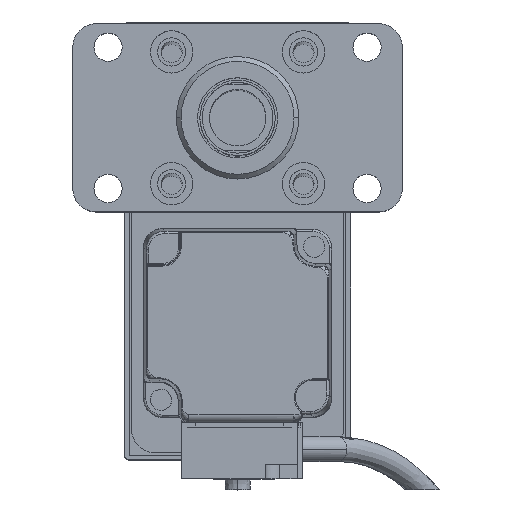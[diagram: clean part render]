
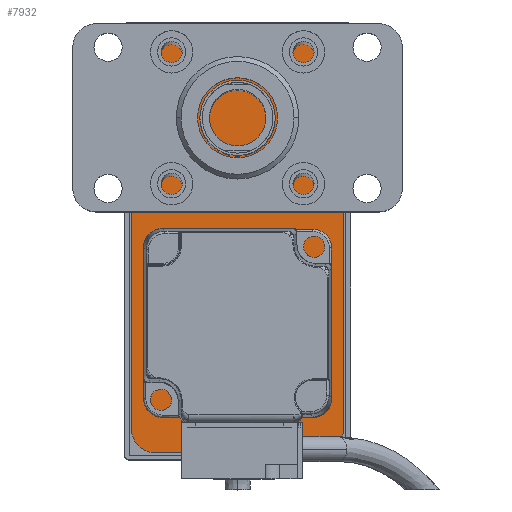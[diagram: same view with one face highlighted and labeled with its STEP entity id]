
A CAD part, top view. The second image highlights one B-rep face of the part: STEP entity #7932.
In plain terms, the highlighted planar face has unit normal (0, 0, 1).
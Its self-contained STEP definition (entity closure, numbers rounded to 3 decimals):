
#1234 = DIRECTION ( 'NONE',  ( 1., 0., 0. ) ) ;
#1962 = CARTESIAN_POINT ( 'NONE',  ( 22.5, 40., 10. ) ) ;
#2036 = CARTESIAN_POINT ( 'NONE',  ( 0., 0., 10. ) ) ;
#2417 = VERTEX_POINT ( 'NONE', #20631 ) ;
#3231 = VECTOR ( 'NONE', #5823, 1000. ) ;
#3233 = DIRECTION ( 'NONE',  ( 0., 0., 1. ) ) ;
#3871 = PLANE ( 'NONE',  #24616 ) ;
#3958 = DIRECTION ( 'NONE',  ( 0., 0., 1. ) ) ;
#4046 = DIRECTION ( 'NONE',  ( 1., 0., 0. ) ) ;
#4261 = CARTESIAN_POINT ( 'NONE',  ( 22.5, -40., 10. ) ) ;
#4332 = ORIENTED_EDGE ( 'NONE', *, *, #4640, .T. ) ;
#4394 = VECTOR ( 'NONE', #17403, 1000. ) ;
#4421 = VERTEX_POINT ( 'NONE', #23497 ) ;
#4640 = EDGE_CURVE ( 'NONE', #2417, #7946, #6030, .T. ) ;
#5169 = CARTESIAN_POINT ( 'NONE',  ( -17.5, -40., 10. ) ) ;
#5355 = CARTESIAN_POINT ( 'NONE',  ( -22.5, -40., 10. ) ) ;
#5425 = CIRCLE ( 'NONE', #5783, 5. ) ;
#5783 = AXIS2_PLACEMENT_3D ( 'NONE', #14087, #18039, #8304 ) ;
#5823 = DIRECTION ( 'NONE',  ( 0., -1., 0. ) ) ;
#6030 = LINE ( 'NONE', #10288, #11377 ) ;
#6032 = AXIS2_PLACEMENT_3D ( 'NONE', #9995, #21580, #11745 ) ;
#6459 = ORIENTED_EDGE ( 'NONE', *, *, #13279, .T. ) ;
#7123 = EDGE_CURVE ( 'NONE', #22313, #14826, #20347, .T. ) ;
#7228 = ORIENTED_EDGE ( 'NONE', *, *, #13419, .T. ) ;
#7421 = DIRECTION ( 'NONE',  ( 1., 0., 0. ) ) ;
#7932 = ADVANCED_FACE ( 'NONE', ( #20956 ), #3871, .T. ) ;
#7934 = EDGE_CURVE ( 'NONE', #4421, #23814, #10716, .T. ) ;
#7946 = VERTEX_POINT ( 'NONE', #16504 ) ;
#8055 = VERTEX_POINT ( 'NONE', #20643 ) ;
#8304 = DIRECTION ( 'NONE',  ( 1., 0., 0. ) ) ;
#8590 = LINE ( 'NONE', #9436, #4394 ) ;
#8711 = AXIS2_PLACEMENT_3D ( 'NONE', #9198, #3233, #20679 ) ;
#9198 = CARTESIAN_POINT ( 'NONE',  ( 17.5, 40., 10. ) ) ;
#9436 = CARTESIAN_POINT ( 'NONE',  ( 22.5, -45., 10. ) ) ;
#9995 = CARTESIAN_POINT ( 'NONE',  ( -17.5, 40., 10. ) ) ;
#10288 = CARTESIAN_POINT ( 'NONE',  ( 22.5, -45., 10. ) ) ;
#10716 = LINE ( 'NONE', #15295, #3231 ) ;
#10976 = ORIENTED_EDGE ( 'NONE', *, *, #13094, .T. ) ;
#11377 = VECTOR ( 'NONE', #1234, 1000. ) ;
#11745 = DIRECTION ( 'NONE',  ( 1., 0., 0. ) ) ;
#11798 = ORIENTED_EDGE ( 'NONE', *, *, #7934, .T. ) ;
#11836 = CIRCLE ( 'NONE', #6032, 5. ) ;
#13027 = DIRECTION ( 'NONE',  ( 0., 0., 1. ) ) ;
#13064 = EDGE_LOOP ( 'NONE', ( #6459, #23454, #14742, #7228, #11798, #10976, #4332, #24624 ) ) ;
#13094 = EDGE_CURVE ( 'NONE', #23814, #2417, #22980, .T. ) ;
#13279 = EDGE_CURVE ( 'NONE', #14339, #22313, #8590, .T. ) ;
#13419 = EDGE_CURVE ( 'NONE', #8055, #4421, #11836, .T. ) ;
#14033 = CARTESIAN_POINT ( 'NONE',  ( 17.5, 45., 10. ) ) ;
#14087 = CARTESIAN_POINT ( 'NONE',  ( 17.5, -40., 10. ) ) ;
#14290 = DIRECTION ( 'NONE',  ( -1., 0., 0. ) ) ;
#14339 = VERTEX_POINT ( 'NONE', #4261 ) ;
#14742 = ORIENTED_EDGE ( 'NONE', *, *, #14960, .T. ) ;
#14826 = VERTEX_POINT ( 'NONE', #14033 ) ;
#14960 = EDGE_CURVE ( 'NONE', #14826, #8055, #16958, .T. ) ;
#15295 = CARTESIAN_POINT ( 'NONE',  ( -22.5, -45., 10. ) ) ;
#16504 = CARTESIAN_POINT ( 'NONE',  ( 17.5, -45., 10. ) ) ;
#16958 = LINE ( 'NONE', #23925, #24124 ) ;
#17403 = DIRECTION ( 'NONE',  ( 0., 1., 0. ) ) ;
#18039 = DIRECTION ( 'NONE',  ( 0., 0., 1. ) ) ;
#18560 = EDGE_CURVE ( 'NONE', #7946, #14339, #5425, .T. ) ;
#20347 = CIRCLE ( 'NONE', #8711, 5. ) ;
#20631 = CARTESIAN_POINT ( 'NONE',  ( -17.5, -45., 10. ) ) ;
#20643 = CARTESIAN_POINT ( 'NONE',  ( -17.5, 45., 10. ) ) ;
#20679 = DIRECTION ( 'NONE',  ( 1., 0., 0. ) ) ;
#20956 = FACE_OUTER_BOUND ( 'NONE', #13064, .T. ) ;
#21580 = DIRECTION ( 'NONE',  ( 0., 0., 1. ) ) ;
#22313 = VERTEX_POINT ( 'NONE', #1962 ) ;
#22980 = CIRCLE ( 'NONE', #24824, 5. ) ;
#23454 = ORIENTED_EDGE ( 'NONE', *, *, #7123, .T. ) ;
#23497 = CARTESIAN_POINT ( 'NONE',  ( -22.5, 40., 10. ) ) ;
#23814 = VERTEX_POINT ( 'NONE', #5355 ) ;
#23925 = CARTESIAN_POINT ( 'NONE',  ( 22.5, 45., 10. ) ) ;
#24124 = VECTOR ( 'NONE', #14290, 1000. ) ;
#24616 = AXIS2_PLACEMENT_3D ( 'NONE', #2036, #3958, #4046 ) ;
#24624 = ORIENTED_EDGE ( 'NONE', *, *, #18560, .T. ) ;
#24824 = AXIS2_PLACEMENT_3D ( 'NONE', #5169, #13027, #7421 ) ;
